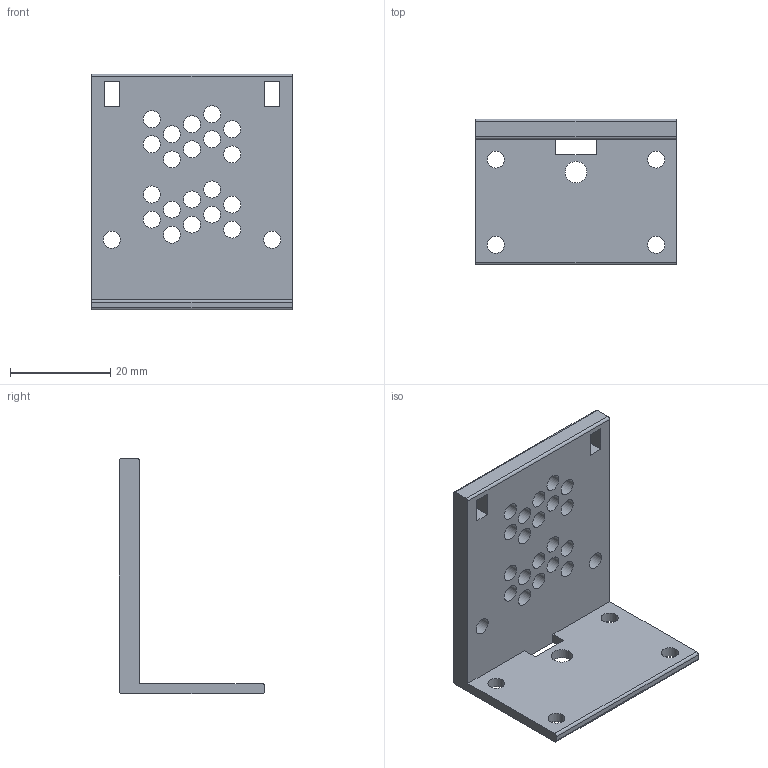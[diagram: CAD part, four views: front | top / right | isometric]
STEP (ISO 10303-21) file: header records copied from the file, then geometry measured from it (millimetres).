
FILE_DESCRIPTION(('Open CASCADE Model'),'2;1');
FILE_NAME('SolenoidMount','2026-06-25T14:49:39',('Author'),( 'Open CASCADE'),'Open CASCADE STEP processor 7.8','build123d', 'Unknown');
FILE_SCHEMA(('AUTOMOTIVE_DESIGN { 1 0 10303 214 1 1 1 1 }'));
Length unit declared in the file: millimetre
Products named in the file (1): SolenoidMount
Bounding box: 40 x 29 x 47 mm (x, y, z)
Volume: 8407.2 mm3; surface area: 7114.7 mm2
Topology: 1 solids, 1 shells, 53 faces, 154 edges, 102 vertices
Faces by surface type: cylinder 32, plane 19, cone 2
Full cylindrical faces by diameter (mm): 3.4 x26, 4.3 x1
Entity records: 4042 total; most frequent: CARTESIAN_POINT 882, DIRECTION 592, LINE 332, VECTOR 332, ORIENTED_EDGE 308, PCURVE 308, DEFINITIONAL_REPRESENTATION 308, EDGE_CURVE 154
